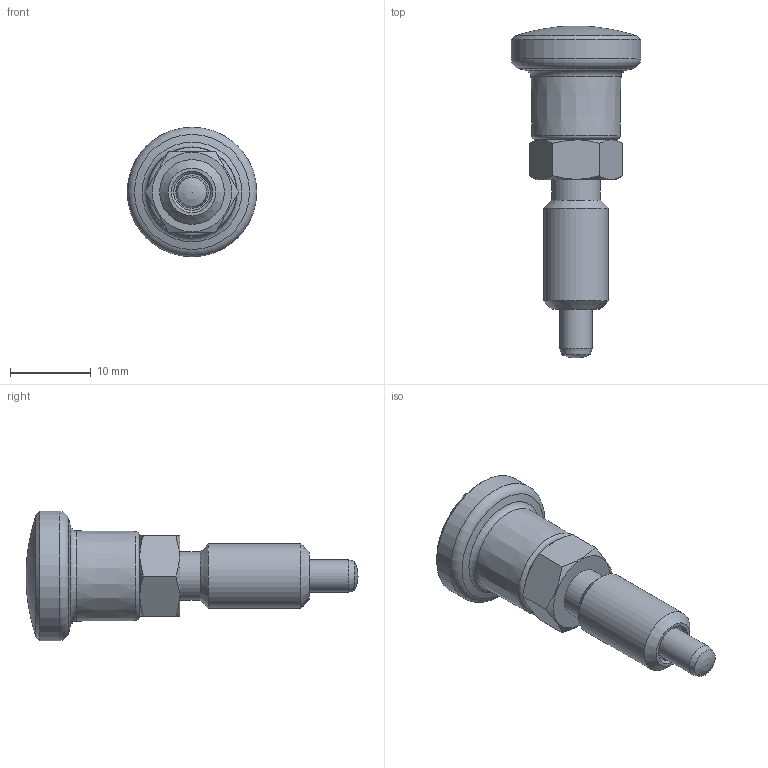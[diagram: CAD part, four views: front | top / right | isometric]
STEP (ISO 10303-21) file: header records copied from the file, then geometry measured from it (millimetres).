
FILE_DESCRIPTION( ( 'STEP AP203' ), '1' );
FILE_NAME( 'C:/Temp/Ganter_Step_05_03_2020/data/3_1/gn817/gn817_ni-rastbolzen_rot/Stainless steel-Indexing plunger GN 817-4-6-B-NI-RT (deactivated).stp', '2020-03-12T09:00:11', ( 'License CC BY-ND 4.0' ), ( 'CADENAS' ), ' ', 'PARTsolutions', ' ' );
FILE_SCHEMA( ( 'CONFIG_CONTROL_DESIGN' ) );
Length unit declared in the file: millimetre
Products named in the file (4): Stainless steel-Indexing plunger GN 817-4-6-B-NI-RT (deactivated); _Stainless steel-Indexing plunger GN 817-4-6-B-NI-RT (deactivated)-d; _Stainless steel-Indexing plunger GN 817-4-6-B-NI-RT-2; _Stainless Steel Indexing plunger GN 817-4-6-B-NI-RT-1
Assembly tree (3 placements, depth 2):
  Stainless steel-Indexing plunger GN 817-4-6-B-NI-RT (deactivated)
    _Stainless steel-Indexing plunger GN 817-4-6-B-NI-RT (deactivated)-d
    _Stainless steel-Indexing plunger GN 817-4-6-B-NI-RT-2
    _Stainless Steel Indexing plunger GN 817-4-6-B-NI-RT-1
Bounding box: 16 x 41 x 16 mm (x, y, z)
Volume: 2925.7 mm3; surface area: 2173.5 mm2
Topology: 2 solids, 2 shells, 38 faces, 76 edges, 46 vertices
Faces by surface type: plane 13, cone 10, cylinder 8, torus 5, bspline 1, sphere 1
Full cylindrical faces by diameter (mm): 3 x2, 4 x1, 4.5 x2, 6 x1, 8 x1, 16 x1
Entity records: 1082 total; most frequent: CARTESIAN_POINT 270, DIRECTION 148, ORIENTED_EDGE 96, AXIS2_PLACEMENT_3D 71, EDGE_LOOP 68, FACE_OUTER_BOUND 51, EDGE_CURVE 48, VERTEX_POINT 44
